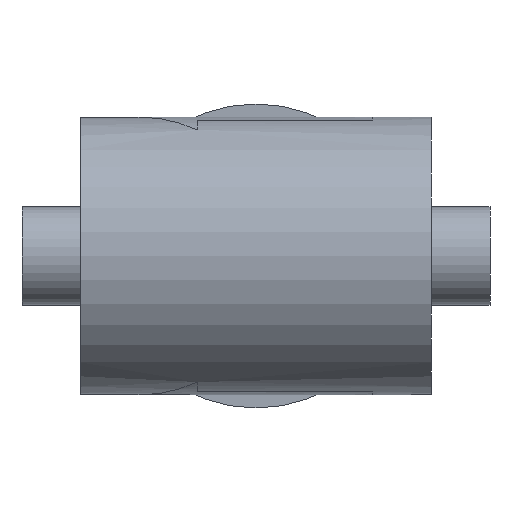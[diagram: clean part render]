
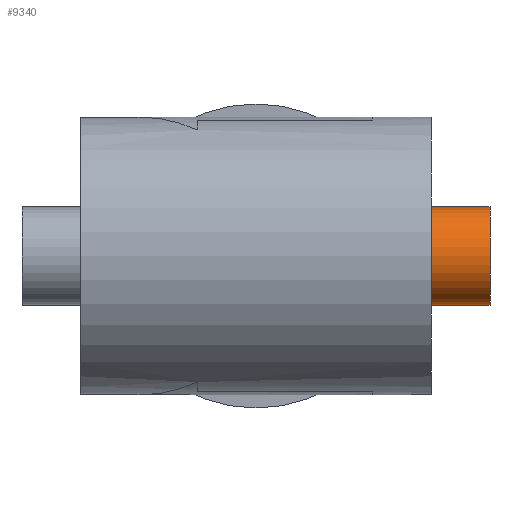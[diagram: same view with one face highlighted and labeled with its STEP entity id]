
A CAD part, front view. The second image highlights one B-rep face of the part: STEP entity #9340.
In plain terms, the highlighted cylindrical face has radius 10.668 mm (diameter 21.336 mm), a full revolution.
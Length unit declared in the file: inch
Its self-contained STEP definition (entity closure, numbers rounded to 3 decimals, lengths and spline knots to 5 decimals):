
#68 = EDGE_LOOP ( 'NONE', ( #2685 ) ) ;
#510 = DIRECTION ( 'NONE',  ( -1., 0., 0. ) ) ;
#1409 = CARTESIAN_POINT ( 'NONE',  ( 2., 0., -0.42 ) ) ;
#2685 = ORIENTED_EDGE ( 'NONE', *, *, #14526, .F. ) ;
#7953 = AXIS2_PLACEMENT_3D ( 'NONE', #15449, #40453, #41161 ) ;
#9340 = ADVANCED_FACE ( 'NONE', ( #47102, #24996 ), #32675, .T. ) ;
#13913 = DIRECTION ( 'NONE',  ( 0., -1., 0. ) ) ;
#14526 = EDGE_CURVE ( 'NONE', #34145, #34145, #14877, .T. ) ;
#14733 = DIRECTION ( 'NONE',  ( 0., 0., -1. ) ) ;
#14877 = CIRCLE ( 'NONE', #7953, 0.42 ) ;
#15449 = CARTESIAN_POINT ( 'NONE',  ( 2., 0., 0. ) ) ;
#17972 = EDGE_CURVE ( 'NONE', #19230, #19230, #26931, .T. ) ;
#19230 = VERTEX_POINT ( 'NONE', #23574 ) ;
#23574 = CARTESIAN_POINT ( 'NONE',  ( 1.5, 0., -0.42 ) ) ;
#24996 = FACE_OUTER_BOUND ( 'NONE', #68, .T. ) ;
#26931 = CIRCLE ( 'NONE', #42287, 0.42 ) ;
#28931 = EDGE_LOOP ( 'NONE', ( #30071 ) ) ;
#30071 = ORIENTED_EDGE ( 'NONE', *, *, #17972, .F. ) ;
#32675 = CYLINDRICAL_SURFACE ( 'NONE', #35324, 0.42 ) ;
#33489 = CARTESIAN_POINT ( 'NONE',  ( 1.5, 0., 0. ) ) ;
#34145 = VERTEX_POINT ( 'NONE', #1409 ) ;
#35324 = AXIS2_PLACEMENT_3D ( 'NONE', #41890, #42120, #13913 ) ;
#40453 = DIRECTION ( 'NONE',  ( 1., 0., 0. ) ) ;
#41161 = DIRECTION ( 'NONE',  ( 0., 0., -1. ) ) ;
#41890 = CARTESIAN_POINT ( 'NONE',  ( 2., 0., 0. ) ) ;
#42120 = DIRECTION ( 'NONE',  ( -1., 0., 0. ) ) ;
#42287 = AXIS2_PLACEMENT_3D ( 'NONE', #33489, #510, #14733 ) ;
#47102 = FACE_OUTER_BOUND ( 'NONE', #28931, .T. ) ;
